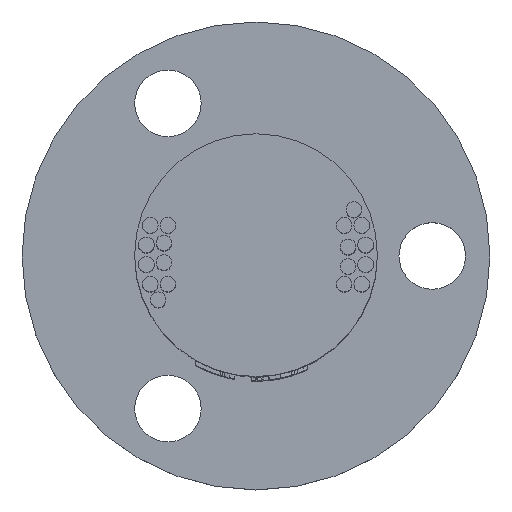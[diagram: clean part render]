
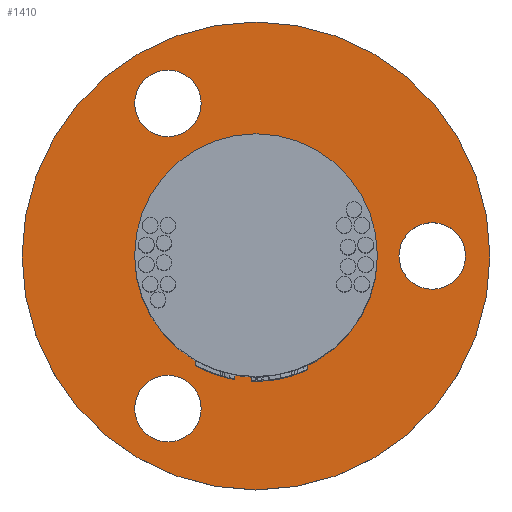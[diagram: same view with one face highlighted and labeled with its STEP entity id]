
A CAD part, top view. The second image highlights one B-rep face of the part: STEP entity #1410.
In plain terms, the highlighted planar face has unit normal (0, 0, 1).
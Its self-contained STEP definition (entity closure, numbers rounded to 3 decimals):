
#198=FACE_BOUND('',#3951,.T.);
#199=FACE_BOUND('',#3952,.T.);
#200=FACE_BOUND('',#3953,.T.);
#201=FACE_BOUND('',#3954,.T.);
#202=FACE_BOUND('',#3955,.T.);
#389=CIRCLE('',#14059,6.2);
#390=CIRCLE('',#14061,1.7);
#391=CIRCLE('',#14062,1.7);
#392=CIRCLE('',#14063,1.7);
#393=CIRCLE('',#14064,11.95);
#721=PLANE('',#14065);
#1410=ADVANCED_FACE('',(#198,#199,#200,#201,#202),#721,.T.);
#3951=EDGE_LOOP('',(#6876));
#3952=EDGE_LOOP('',(#6877));
#3953=EDGE_LOOP('',(#6878));
#3954=EDGE_LOOP('',(#6879));
#3955=EDGE_LOOP('',(#6880));
#6876=ORIENTED_EDGE('',*,*,#11174,.F.);
#6877=ORIENTED_EDGE('',*,*,#11175,.F.);
#6878=ORIENTED_EDGE('',*,*,#11176,.F.);
#6879=ORIENTED_EDGE('',*,*,#11177,.F.);
#6880=ORIENTED_EDGE('',*,*,#11178,.F.);
#9302=VERTEX_POINT('',#27494);
#9303=VERTEX_POINT('',#27497);
#9304=VERTEX_POINT('',#27499);
#9305=VERTEX_POINT('',#27501);
#9306=VERTEX_POINT('',#27503);
#11174=EDGE_CURVE('',#9302,#9302,#389,.T.);
#11175=EDGE_CURVE('',#9303,#9303,#390,.T.);
#11176=EDGE_CURVE('',#9304,#9304,#391,.T.);
#11177=EDGE_CURVE('',#9305,#9305,#392,.T.);
#11178=EDGE_CURVE('',#9306,#9306,#393,.T.);
#14059=AXIS2_PLACEMENT_3D('',#27493,#15349,#15350);
#14061=AXIS2_PLACEMENT_3D('',#27496,#15353,#15354);
#14062=AXIS2_PLACEMENT_3D('',#27498,#15355,#15356);
#14063=AXIS2_PLACEMENT_3D('',#27500,#15357,#15358);
#14064=AXIS2_PLACEMENT_3D('',#27502,#15359,#15360);
#14065=AXIS2_PLACEMENT_3D('',#27504,#15361,#15362);
#15349=DIRECTION('',(0.,0.,1.));
#15350=DIRECTION('',(1.,0.,0.));
#15353=DIRECTION('',(0.,0.,1.));
#15354=DIRECTION('',(1.,0.,0.));
#15355=DIRECTION('',(0.,0.,1.));
#15356=DIRECTION('',(1.,0.,0.));
#15357=DIRECTION('',(0.,0.,1.));
#15358=DIRECTION('',(1.,0.,0.));
#15359=DIRECTION('',(0.,0.,-1.));
#15360=DIRECTION('',(1.,0.,0.));
#15361=DIRECTION('',(0.,0.,1.));
#15362=DIRECTION('',(1.,0.,0.));
#27493=CARTESIAN_POINT('',(0.,0.,5.5));
#27494=CARTESIAN_POINT('',(6.2,0.,5.5));
#27496=CARTESIAN_POINT('',(9.,0.,5.5));
#27497=CARTESIAN_POINT('',(10.7,0.,5.5));
#27498=CARTESIAN_POINT('',(-4.5,7.794,5.5));
#27499=CARTESIAN_POINT('',(-2.8,7.794,5.5));
#27500=CARTESIAN_POINT('',(-4.5,-7.794,5.5));
#27501=CARTESIAN_POINT('',(-2.8,-7.794,5.5));
#27502=CARTESIAN_POINT('',(0.,0.,5.5));
#27503=CARTESIAN_POINT('',(11.95,0.,5.5));
#27504=CARTESIAN_POINT('',(0.,0.,5.5));
